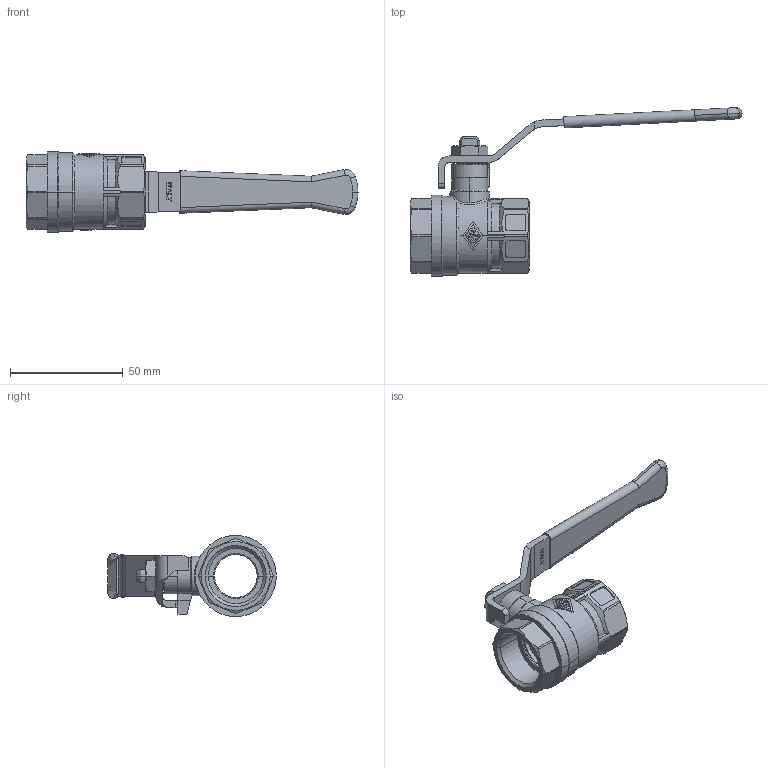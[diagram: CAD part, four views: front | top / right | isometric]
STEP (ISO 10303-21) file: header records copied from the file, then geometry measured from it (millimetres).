
FILE_DESCRIPTION(('OneSpaceDesigner STEP Export'),'2;1');
FILE_NAME('1510050000.stp','2008-09-10T16:19:53',(''),(''),'OneSpace Designer STEP processor for AP214 (Solid Model)','OneSpace Modeling 15.50C 25-Jan-2008 (C) CoCreate Software GmbH','');
FILE_SCHEMA(('AUTOMOTIVE_DESIGN { 1 0 10303 214 1 1 1 1 }'));
Length unit declared in the file: millimetre
Products named in the file (2): 1510050000
Assembly tree (1 placements, depth 2):
  1510050000
    1510050000
Bounding box: 147.42 x 74.91 x 36 mm (x, y, z)
Volume: 39273.3 mm3; surface area: 18835.3 mm2
Topology: 1 solids, 6 shells, 493 faces, 1294 edges, 830 vertices
Faces by surface type: plane 190, cylinder 187, cone 86, torus 21, bspline 9
Entity records: 24030 total; most frequent: CARTESIAN_POINT 12023, ORIENTED_EDGE 2584, DIRECTION 1790, EDGE_CURVE 1292, VERTEX_POINT 830, AXIS2_PLACEMENT_3D 599, VECTOR 592, LINE 592
